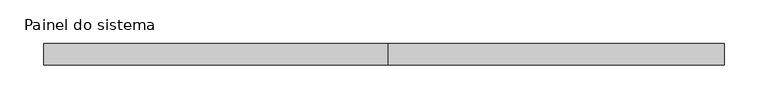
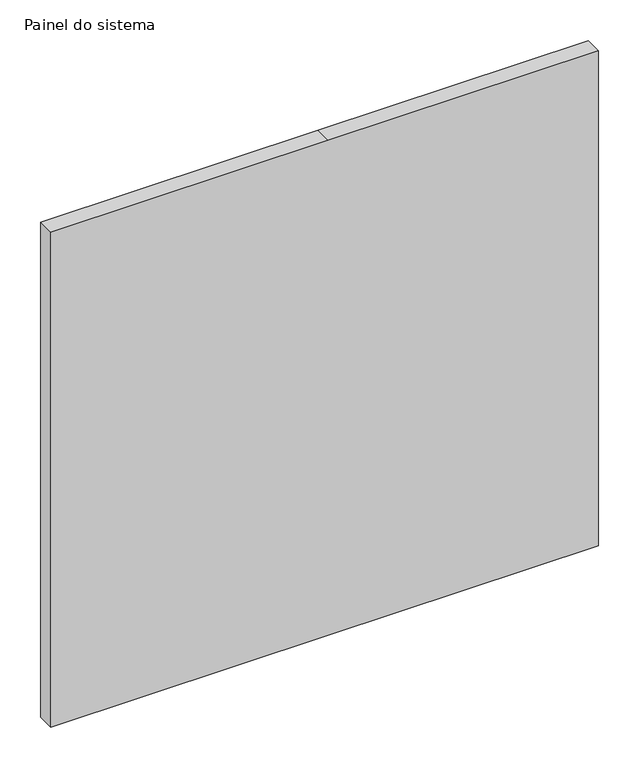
"""IFC4 building model written with IfcOpenShell, lengths in millimetres: plate geometry, Painel do sistema : Envidraçado."""

import ifcopenshell
import ifcopenshell.guid

model = None  # the IFC model being written
_history = None  # IfcOwnerHistory: only IFC2X3 demands one
_inside = {}  # id of a spatial element -> (the spatial element, [elements in it])
_under = {}  # id of a project, library or spatial element -> (it, [spatial elements below it])
_declared = {}  # id of a project -> (the project, [libraries it declares])
_typed = {}  # id of a type object -> (the type object, [elements of that type])
_made_of = {}  # id of a material, layer set ... -> (it, [elements and type objects made of it])


def new_model(schema):
    """Start an empty IFC model of exactly this schema.

    Asked for "IFC4X3", IfcOpenShell would pick the latest addendum, in which some entities
    have other attributes; the version numbers below select the first issue.
    IFC2X3 requires an IfcOwnerHistory on every rooted entity: one is made here for all.
    """
    global model, _history
    if schema == "IFC4X3":
        model = ifcopenshell.file(schema_version=(4, 3, 0, 0))
    else:
        model = ifcopenshell.file(schema=schema)
    _inside.clear()
    _under.clear()
    _declared.clear()
    _typed.clear()
    _made_of.clear()
    _history = None
    if model.schema == "IFC2X3":
        org = make("IfcOrganization", Name="unknown")
        user = make(
            "IfcPersonAndOrganization",
            ThePerson=make("IfcPerson", FamilyName="unknown"),
            TheOrganization=org,
        )
        app = make(
            "IfcApplication",
            ApplicationDeveloper=org,
            Version="unknown",
            ApplicationFullName="unknown",
            ApplicationIdentifier="unknown",
        )
        _history = make(
            "IfcOwnerHistory",
            OwningUser=user,
            OwningApplication=app,
            ChangeAction="ADDED",
            CreationDate=0,
        )
    return model


def make(cls, **values):
    """One entity of the class cls with the attributes given. An attribute that is None is left unset."""
    return model.create_entity(
        cls, **{name: value for name, value in values.items() if value is not None}
    )


def rooted(cls, **values):
    """An entity with a GlobalId (a new one), such as an element, a storey or a relation."""
    return make(cls, GlobalId=ifcopenshell.guid.new(), OwnerHistory=_history, **values)


def si_unit(unit_type, name, prefix=None):
    """IfcSIUnit, for example si_unit("LENGTHUNIT", "METRE", prefix="MILLI")."""
    return make("IfcSIUnit", UnitType=unit_type, Prefix=prefix, Name=name)


def assignment(units):
    """IfcUnitAssignment: the units of a project."""
    return None if units is None else make("IfcUnitAssignment", Units=units)


def point(xyz):
    """IfcCartesianPoint."""
    return None if xyz is None else make("IfcCartesianPoint", Coordinates=xyz)


def direction(xyz):
    """IfcDirection."""
    return None if xyz is None else make("IfcDirection", DirectionRatios=xyz)


def frame(location, z_axis=None, x_axis=None):
    """IfcAxis2Placement3D, a coordinate frame: its origin and axes. An axis left out is left unset."""
    return make(
        "IfcAxis2Placement3D",
        Location=point(location),
        Axis=direction(z_axis),
        RefDirection=direction(x_axis),
    )


def origin():
    """The frame at (0, 0, 0) with its axes left unset."""
    return frame((0.0, 0.0, 0.0))


def place(relative_to, where):
    """IfcLocalPlacement: puts the frame where relative to a parent placement (None: the world)."""
    return make(
        "IfcLocalPlacement", PlacementRelTo=relative_to, RelativePlacement=where
    )


def context(
    kind, dimensions, precision=None, world=None, true_north=None, identifier=None
):
    """IfcGeometricRepresentationContext, for example the 3D "Model" context."""
    return make(
        "IfcGeometricRepresentationContext",
        ContextIdentifier=identifier,
        ContextType=kind,
        CoordinateSpaceDimension=dimensions,
        Precision=precision,
        WorldCoordinateSystem=world,
        TrueNorth=true_north,
    )


def project(units=None, contexts=None):
    """IfcProject with its units and contexts."""
    return rooted(
        "IfcProject",
        Name="project",
        RepresentationContexts=contexts,
        UnitsInContext=assignment(units),
    )


def spatial(cls, under=None, at=None, **own):
    """A site, building, storey or space (cls), placed at a placement, below another one or the project."""
    s = rooted(cls, ObjectPlacement=at, **own)
    if under is not None:
        _under.setdefault(under.id(), (under, []))[1].append(s)
    return s


def polyline(points):
    """IfcPolyline through the points."""
    return make("IfcPolyline", Points=[point(p) for p in points])


def outline(outer, holes=None, kind="AREA"):
    """IfcArbitraryClosedProfileDef: a profile drawn as a closed curve; with holes, ...WithVoids."""
    if holes is None:
        return make("IfcArbitraryClosedProfileDef", ProfileType=kind, OuterCurve=outer)
    return make(
        "IfcArbitraryProfileDefWithVoids",
        ProfileType=kind,
        OuterCurve=outer,
        InnerCurves=holes,
    )


def extrude(swept, where, along, depth):
    """IfcExtrudedAreaSolid: the profile swept, set in the frame where, extruded along a direction by depth."""
    return make(
        "IfcExtrudedAreaSolid",
        SweptArea=swept,
        Position=where,
        ExtrudedDirection=direction(along),
        Depth=depth,
    )


def shape(context_of_items, identifier, shape_type, items):
    """IfcShapeRepresentation: the items that make up one representation, for example the "Body"."""
    return make(
        "IfcShapeRepresentation",
        ContextOfItems=context_of_items,
        RepresentationIdentifier=identifier,
        RepresentationType=shape_type,
        Items=items,
    )


def source(mapping_origin, context_of_items, identifier, shape_type, items):
    """IfcRepresentationMap: a shape defined once, which mapped items show again and again."""
    return make(
        "IfcRepresentationMap",
        MappingOrigin=mapping_origin,
        MappedRepresentation=shape(context_of_items, identifier, shape_type, items),
    )


def transform(
    local_origin,
    x_axis=None,
    y_axis=None,
    z_axis=None,
    scale=None,
    scale2=None,
    scale3=None,
    uniform=True,
):
    """IfcCartesianTransformationOperator3D, or its non-uniform kind. x_axis, y_axis, z_axis: its Axis1, 2, 3."""
    if uniform:
        return make(
            "IfcCartesianTransformationOperator3D",
            Axis1=direction(x_axis),
            Axis2=direction(y_axis),
            LocalOrigin=point(local_origin),
            Scale=scale,
            Axis3=direction(z_axis),
        )
    return make(
        "IfcCartesianTransformationOperator3DnonUniform",
        Axis1=direction(x_axis),
        Axis2=direction(y_axis),
        LocalOrigin=point(local_origin),
        Scale=scale,
        Axis3=direction(z_axis),
        Scale2=scale2,
        Scale3=scale3,
    )


def mapped(mapping_source, mapping_target):
    """IfcMappedItem: shows the shape of a source again, moved by a transform."""
    return make(
        "IfcMappedItem", MappingSource=mapping_source, MappingTarget=mapping_target
    )


def made_of(thing, what):
    """Note that an element or type object is made of a material, layer set ...; save() writes the relation."""
    if what is not None:
        _made_of.setdefault(what.id(), (what, []))[1].append(thing)
    return thing


def element(
    cls,
    number,
    at=None,
    inside=None,
    cuts=None,
    type_object=None,
    material=None,
    context=None,
    identifier="Body",
    shape_type=None,
    held_by="IfcProductDefinitionShape",
    body=None,
    shapes=None,
    **own,
):
    """One element of the class cls, such as IfcWall. Its Tag is "e" and its number.

    at: its placement. inside: the storey or other place that contains it. cuts: it is an
    opening in that element (IfcRelVoidsElement). A single representation is given by context,
    identifier, shape_type and body (its items); several are given by shapes. held_by: the class
    of the entity that holds the representations. save() writes the other relations.
    """
    e = rooted(cls, Tag="e%d" % number, ObjectPlacement=at, **own)
    if body is not None:
        shapes = [shape(context, identifier, shape_type, body)]
    if shapes is not None:
        e.Representation = make(held_by, Representations=shapes)
    if inside is not None:
        _inside.setdefault(inside.id(), (inside, []))[1].append(e)
    if cuts is not None:
        rooted(
            "IfcRelVoidsElement", RelatingBuildingElement=cuts, RelatedOpeningElement=e
        )
    if type_object is not None:
        _typed.setdefault(type_object.id(), (type_object, []))[1].append(e)
    return made_of(e, material)


def aggregate(whole, parts):
    """IfcRelAggregates: a whole, such as a stair, and the parts it consists of."""
    return rooted("IfcRelAggregates", RelatingObject=whole, RelatedObjects=parts)


def save(model, path):
    """Write the relations noted so far, then the file.

    IfcRelAggregates (storeys below a building ...), IfcRelContainedInSpatialStructure (elements
    in a storey), IfcRelDefinesByType, IfcRelAssociatesMaterial and IfcRelDeclares: one each for
    every whole, place, type object, material and project.
    """
    for whole, parts in _under.values():
        aggregate(whole, parts)
    for where, things in _inside.values():
        rooted(
            "IfcRelContainedInSpatialStructure",
            RelatedElements=things,
            RelatingStructure=where,
        )
    for kind, things in _typed.values():
        rooted("IfcRelDefinesByType", RelatedObjects=things, RelatingType=kind)
    for what, things in _made_of.values():
        rooted("IfcRelAssociatesMaterial", RelatedObjects=things, RelatingMaterial=what)
    for by, libraries in _declared.values():
        rooted("IfcRelDeclares", RelatingContext=by, RelatedDefinitions=libraries)
    model.write(path)


def painel_do_sistema_703e0f7f(model_context):
    return source(origin(), model_context, "Body", "SweptSolid", [
        extrude(outline(polyline([(0.0, -390.0), (0.0, 5.0), (0.0, 390.0), (745.0, 390.0), (745.0, 5.0), (745.0, -390.0), (0.0, -390.0)])), frame((0.0, 24.5, 0.0), z_axis=(0.0, 1.0, 0.0), x_axis=(0.0, 0.0, 1.0)), (0.0, 0.0, 1.0), 25.0),
    ])


if __name__ == "__main__":
    model = new_model("IFC4")
    model_context = context("Model", 3, world=origin())
    ifc_project = project(units=[si_unit("LENGTHUNIT", "METRE", prefix="MILLI")], contexts=[model_context])
    site = spatial("IfcSite", under=ifc_project)
    building = spatial("IfcBuilding", under=site)
    placement = place(None, origin())
    painel_do_sistema_shape = painel_do_sistema_703e0f7f(model_context)
    element("IfcPlate", 1, ObjectType="Painel do sistema : Envidraçado", at=placement, inside=building, context=model_context, shape_type="MappedRepresentation", body=[
        mapped(painel_do_sistema_shape, transform((0.0, 0.0, 0.0), x_axis=(1.0, 0.0, 0.0), y_axis=(0.0, 1.0, 0.0), z_axis=(0.0, 0.0, 1.0))),
    ])
    save(model, "model.ifc")
